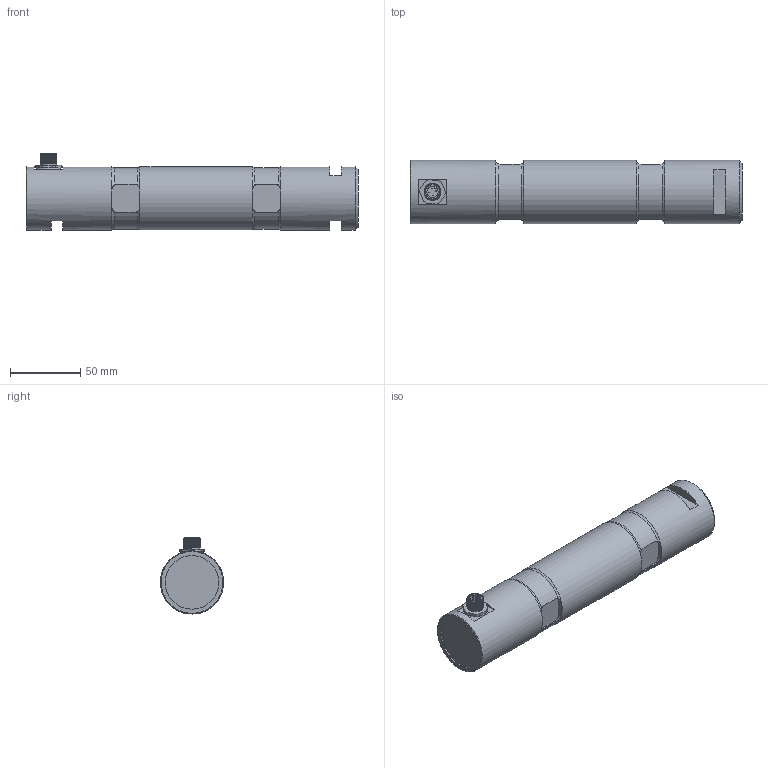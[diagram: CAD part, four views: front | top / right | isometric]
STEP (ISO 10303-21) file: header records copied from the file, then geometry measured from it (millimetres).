
FILE_DESCRIPTION(/* description */ ('Alibre Inc.'),/* implementation_level */ '2;1');
FILE_NAME(/* name */ 'export0',/* time_stamp */ '2016-12-09T14:38:38+01:00',/* author */ (''),/* organization */ (''),/* preprocessor_version */ 'ST-DEVELOPER v14',/* originating_system */ 'Alibre',/* authorisation */ '');
FILE_SCHEMA (('CONFIG_CONTROL_DESIGN'));
Length unit declared in the file: centimetre
Products named in the file (6): ID_1; ID_2; ID_3; ID_4
Bounding box: 236 x 45 x 54.12 mm (x, y, z)
Volume: 362797 mm3; surface area: 41793.8 mm2
Topology: 8 solids, 8 shells, 174 faces, 391 edges, 241 vertices
Faces by surface type: plane 77, cylinder 59, bspline 23, torus 9, cone 6
Full cylindrical faces by diameter (mm): 0.5 x8, 8 x2, 10 x4, 11.5 x1, 13 x1, 14.376 x1, 38 x1, 45 x3
Entity records: 16320 total; most frequent: CARTESIAN_POINT 12593, ORIENTED_EDGE 702, DIRECTION 473, EDGE_CURVE 346, VERTEX_POINT 227, FACE_BOUND 220, EDGE_LOOP 219, AXIS2_PLACEMENT_3D 212
